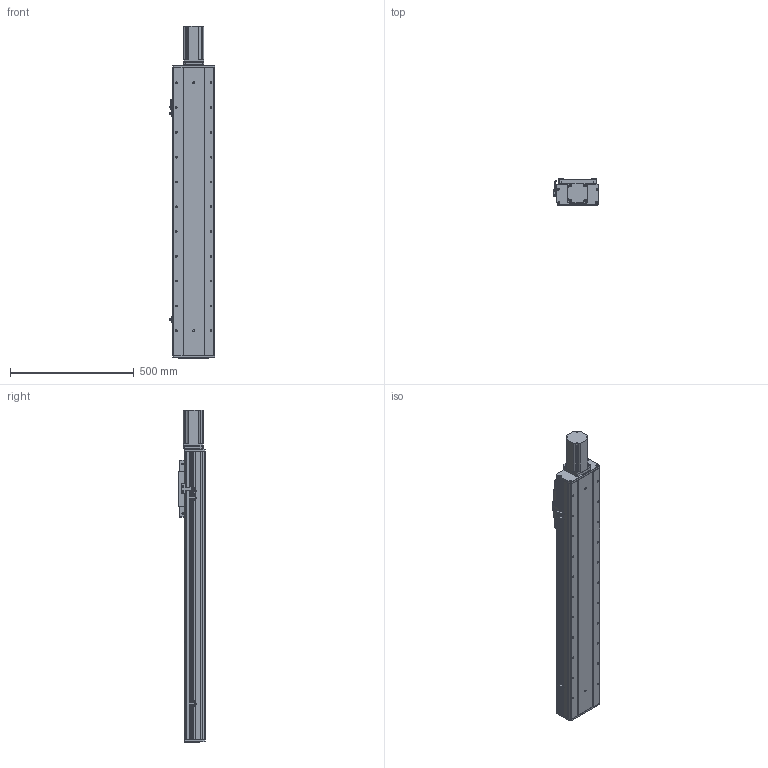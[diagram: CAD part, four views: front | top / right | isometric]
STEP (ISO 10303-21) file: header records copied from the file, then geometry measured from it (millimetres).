
FILE_DESCRIPTION (( 'STEP AP203' ), '1' );
FILE_NAME ('RY170F-L2020-300-MK.SLDASM_850.step', '2021-03-02T06:31:41', ( '盈信电脑' ), ( '东莞市道滘镇水果街19号' ), 'SwSTEP 2.0', 'SolidWorks 2012', '' );
FILE_SCHEMA (( 'CONFIG_CONTROL_DESIGN' ));
Length unit declared in the file: millimetre
Products named in the file (22): 侐源滅袉蝶; 覜茼ん674; RY170F-L2020-300-MK.SLDASM_850; 怢湛750W萇儂ㄗ80遺ㄘ; 750W萇儂梓袧蛌諉啣; RY170F-詩湍揤踡輸; 滅袉蝶18-24; RY170F俋离覜茼え; 覜茼ん672; RY170F-揤踡謫假蚾粣; RY170F-后盖板(铝件）; RY100F-詩湍揤踡謫; RY170F-直连前盖板(铝件）; 侂狟400W侜督萇儂; 滅袉蝶18-10; RY170F-丝杆铝滑块连接板; 15; RY170F-佪裝臏賑輸20蹟譫; RY170F-300眻蟀祥凄詩湍-MK_850; RY170F-300眻蟀倰第菁釱-MK_850; RY170F-滅鳥奻裔; RY170F-300眻蟀倰第奻裔啣-MK_850
Assembly tree (26 placements, depth 3):
  RY170F-L2020-300-MK.SLDASM_850
    RY170F-300眻蟀倰第菁釱-MK_850
    RY170F-300眻蟀祥凄詩湍-MK_850
    RY170F-300眻蟀倰第奻裔啣-MK_850  x2
    RY170F-滅鳥奻裔
    RY170F-佪裝臏賑輸20蹟譫
    RY170F-丝杆铝滑块连接板
    侂狟400W侜督萇儂
      15
    RY170F-直连前盖板(铝件）
    滅袉蝶18-10
    RY100F-詩湍揤踡謫
    RY170F-后盖板(铝件）
    覜茼ん672  x3
    RY170F俋离覜茼え
    RY170F-揤踡謫假蚾粣
    RY170F-詩湍揤踡輸  x2
    滅袉蝶18-24
    750W萇儂梓袧蛌諉啣
    怢湛750W萇儂ㄗ80遺ㄘ
    侐源滅袉蝶  x2
    覜茼ん674
Bounding box: 183.7 x 107 x 1339 mm (x, y, z)
Volume: 7088638.1 mm3; surface area: 2209867.3 mm2
Topology: 25 solids, 25 shells, 2280 faces, 6275 edges, 4008 vertices
Faces by surface type: cylinder 1017, plane 1001, cone 244, bspline 18
Entity records: 66791 total; most frequent: CARTESIAN_POINT 13143, DIRECTION 10989, ORIENTED_EDGE 10478, EDGE_CURVE 5239, AXIS2_PLACEMENT_3D 3920, VERTEX_POINT 3428, VECTOR 3149, LINE 3149
